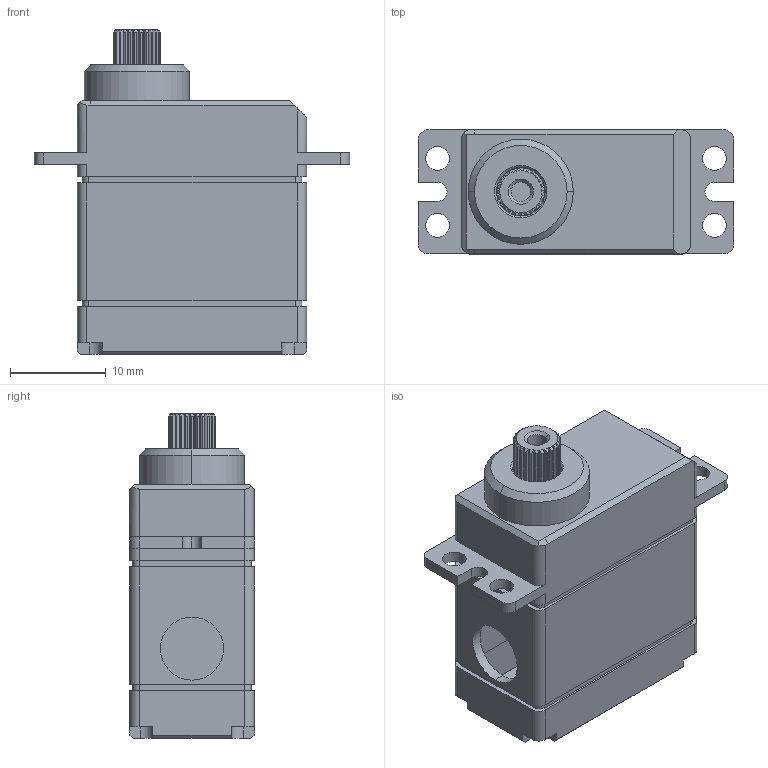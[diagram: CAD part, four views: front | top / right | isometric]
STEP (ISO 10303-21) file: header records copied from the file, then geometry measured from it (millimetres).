
FILE_DESCRIPTION (( 'STEP AP214' ), '1' );
FILE_NAME ('BLS88WP_DM_20221123.STEP', '2023-07-05T08:49:21', ( '' ), ( '' ), 'SwSTEP 2.0', 'SolidWorks 2016', '' );
FILE_SCHEMA (( 'AUTOMOTIVE_DESIGN' ));
Length unit declared in the file: millimetre
Products named in the file (1): BLS88WP_DM_20221123
Bounding box: 33 x 13 x 34 mm (x, y, z)
Surface area: 3874.4 mm2 (no closed solid volume)
Topology: 0 solids, 6 shells, 272 faces, 816 edges, 554 vertices
Faces by surface type: plane 127, cylinder 113, cone 32
Entity records: 12297 total; most frequent: CARTESIAN_POINT 1845, DIRECTION 1599, ORIENTED_EDGE 1494, EDGE_CURVE 816, AXIS2_PLACEMENT_3D 576, VERTEX_POINT 554, LINE 447, VECTOR 447
